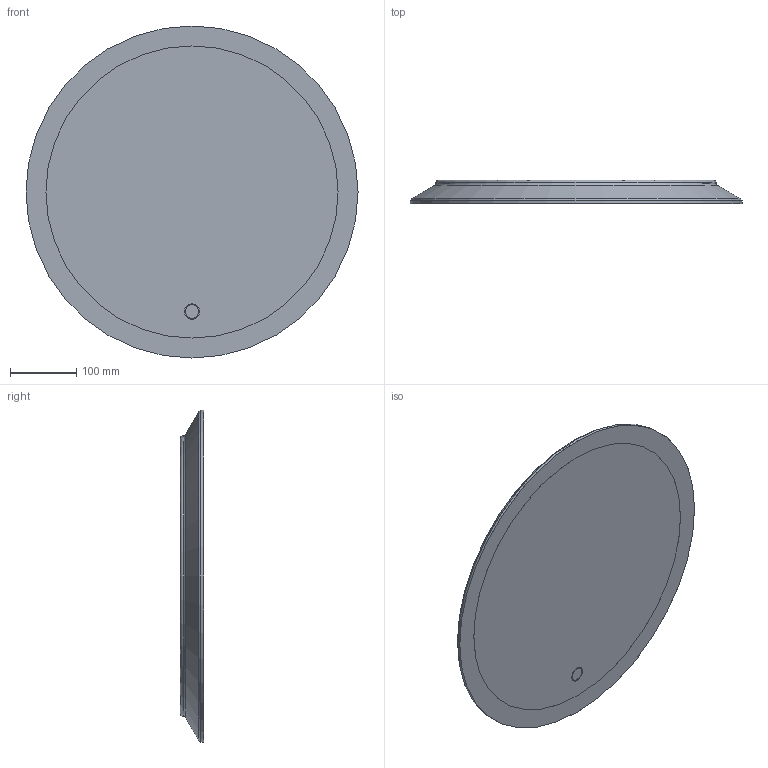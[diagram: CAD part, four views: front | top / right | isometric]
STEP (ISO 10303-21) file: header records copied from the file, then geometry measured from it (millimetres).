
FILE_DESCRIPTION(/* description */ (''),/* implementation_level */ '2;1');
FILE_NAME(/* name */ 'C:\Planerdaten\Export PLA\502.796.00.1\stp\502796.stp',/* time_stamp */ '2022-12-02T15:07:04+01:00',/* author */ ('JANAN'),/* organization */ (''),/* preprocessor_version */ 'ST-DEVELOPER v18.1',/* originating_system */ 'Autodesk Inventor 2021',/* authorisation */ '');
FILE_SCHEMA (('AUTOMOTIVE_DESIGN { 1 0 10303 214 3 1 1 }'));
Length unit declared in the file: millimetre
Products named in the file (1): tmpC7BE.tmp
Bounding box: 500 x 35.1 x 500 mm (x, y, z)
Volume: 5844188.6 mm3; surface area: 895950.9 mm2
Topology: 4 solids, 4 shells, 25 faces, 55 edges, 41 vertices
Faces by surface type: plane 11, cylinder 10, torus 3, cone 1
Full cylindrical faces by diameter (mm): 8 x3, 20 x1, 23 x1, 422 x1, 440 x1, 498 x1, 500 x2
Entity records: 826 total; most frequent: DIRECTION 151, CARTESIAN_POINT 122, ORIENTED_EDGE 110, AXIS2_PLACEMENT_3D 70, EDGE_CURVE 55, CIRCLE 44, VERTEX_POINT 41, EDGE_LOOP 32
